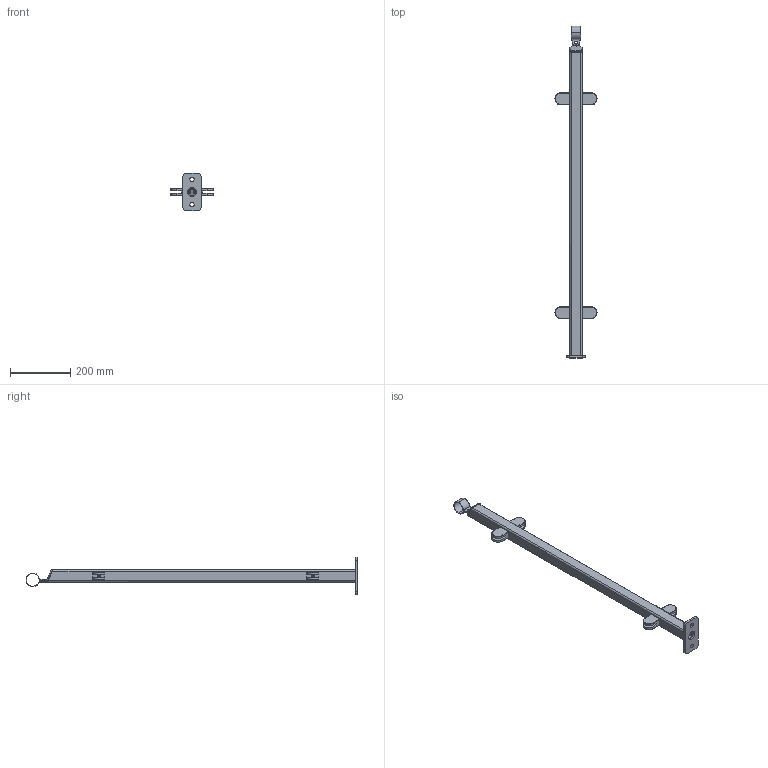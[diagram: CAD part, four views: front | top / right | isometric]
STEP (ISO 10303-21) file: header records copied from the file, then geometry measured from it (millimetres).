
FILE_DESCRIPTION (( 'STEP AP203' ), '1' );
FILE_NAME ('Ståndare KKR 40x40x3 toppmontage glas mitt.STEP', '2014-09-26T06:32:41', ( '' ), ( '' ), 'SwSTEP 2.0', 'SolidWorks 2014', '' );
FILE_SCHEMA (( 'CONFIG_CONTROL_DESIGN' ));
Length unit declared in the file: millimetre
Products named in the file (1): Ståndare KKR 40x40x3 toppmontage glas mitt
Bounding box: 139.81 x 1101.5 x 126 mm (x, y, z)
Volume: 631582.3 mm3; surface area: 363422.9 mm2
Topology: 2 solids, 6 shells, 396 faces, 989 edges, 614 vertices
Faces by surface type: cylinder 172, plane 164, torus 32, cone 24, bspline 4
Entity records: 12020 total; most frequent: CARTESIAN_POINT 2322, DIRECTION 2121, ORIENTED_EDGE 1970, EDGE_CURVE 985, AXIS2_PLACEMENT_3D 797, VERTEX_POINT 614, VECTOR 527, LINE 527
